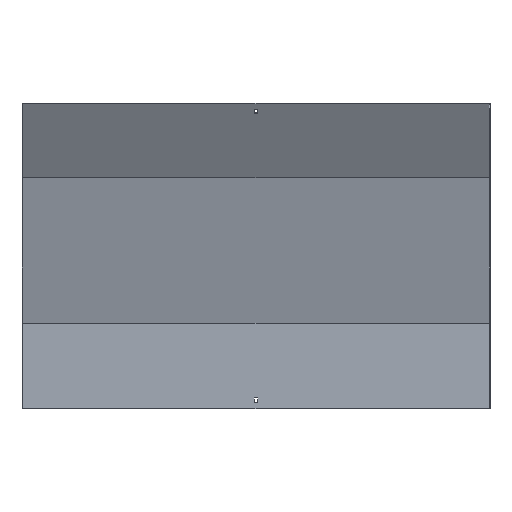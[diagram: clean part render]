
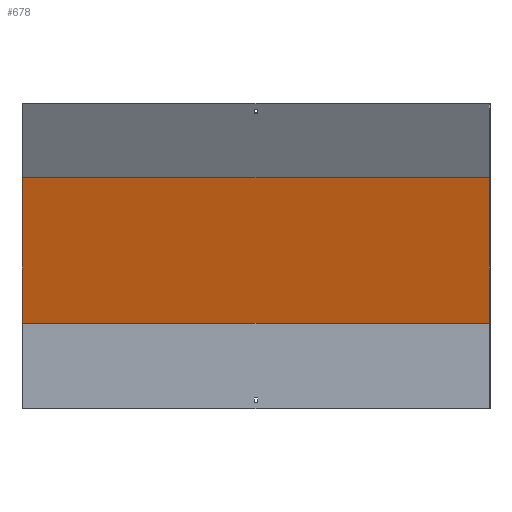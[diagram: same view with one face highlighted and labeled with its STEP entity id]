
A CAD part, front view. The second image highlights one B-rep face of the part: STEP entity #678.
In plain terms, the highlighted planar face has unit normal (0, -0.966, -0.259).
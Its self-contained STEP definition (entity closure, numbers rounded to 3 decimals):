
#4 = EDGE_CURVE ( 'NONE', #687, #441, #462, .T. ) ;
#15 = CARTESIAN_POINT ( 'NONE',  ( -450., 18.5, 165.436 ) ) ;
#25 = CARTESIAN_POINT ( 'NONE',  ( 451.5, -56.524, 445.43 ) ) ;
#44 = VECTOR ( 'NONE', #350, 1000. ) ;
#82 = CARTESIAN_POINT ( 'NONE',  ( 451.5, 17.87, 167.788 ) ) ;
#91 = DIRECTION ( 'NONE',  ( 0., 0.259, -0.966 ) ) ;
#110 = CARTESIAN_POINT ( 'NONE',  ( -450., -56.524, 445.43 ) ) ;
#115 = ORIENTED_EDGE ( 'NONE', *, *, #461, .T. ) ;
#118 = LINE ( 'NONE', #447, #747 ) ;
#280 = EDGE_CURVE ( 'NONE', #386, #687, #681, .T. ) ;
#287 = DIRECTION ( 'NONE',  ( -1., 0., 0. ) ) ;
#307 = EDGE_CURVE ( 'NONE', #711, #441, #619, .T. ) ;
#339 = DIRECTION ( 'NONE',  ( 0., -0.966, -0.259 ) ) ;
#350 = DIRECTION ( 'NONE',  ( -1., 0., 0. ) ) ;
#359 = ORIENTED_EDGE ( 'NONE', *, *, #280, .F. ) ;
#386 = VERTEX_POINT ( 'NONE', #435 ) ;
#414 = PLANE ( 'NONE',  #451 ) ;
#435 = CARTESIAN_POINT ( 'NONE',  ( 450., 18.5, 165.436 ) ) ;
#441 = VERTEX_POINT ( 'NONE', #110 ) ;
#447 = CARTESIAN_POINT ( 'NONE',  ( 450., 58.62, 15.707 ) ) ;
#451 = AXIS2_PLACEMENT_3D ( 'NONE', #82, #339, #91 ) ;
#461 = EDGE_CURVE ( 'NONE', #386, #711, #118, .T. ) ;
#462 = LINE ( 'NONE', #721, #597 ) ;
#478 = CARTESIAN_POINT ( 'NONE',  ( 451.5, 18.5, 165.436 ) ) ;
#514 = EDGE_LOOP ( 'NONE', ( #602, #359, #115, #699 ) ) ;
#550 = FACE_OUTER_BOUND ( 'NONE', #514, .T. ) ;
#597 = VECTOR ( 'NONE', #672, 1000. ) ;
#602 = ORIENTED_EDGE ( 'NONE', *, *, #4, .F. ) ;
#619 = LINE ( 'NONE', #25, #44 ) ;
#627 = DIRECTION ( 'NONE',  ( 0., -0.259, 0.966 ) ) ;
#653 = VECTOR ( 'NONE', #287, 1000. ) ;
#672 = DIRECTION ( 'NONE',  ( 0., -0.259, 0.966 ) ) ;
#678 = ADVANCED_FACE ( 'NONE', ( #550 ), #414, .T. ) ;
#681 = LINE ( 'NONE', #478, #653 ) ;
#687 = VERTEX_POINT ( 'NONE', #15 ) ;
#699 = ORIENTED_EDGE ( 'NONE', *, *, #307, .T. ) ;
#711 = VERTEX_POINT ( 'NONE', #740 ) ;
#721 = CARTESIAN_POINT ( 'NONE',  ( -450., 58.62, 15.707 ) ) ;
#740 = CARTESIAN_POINT ( 'NONE',  ( 450., -56.524, 445.43 ) ) ;
#747 = VECTOR ( 'NONE', #627, 1000. ) ;
